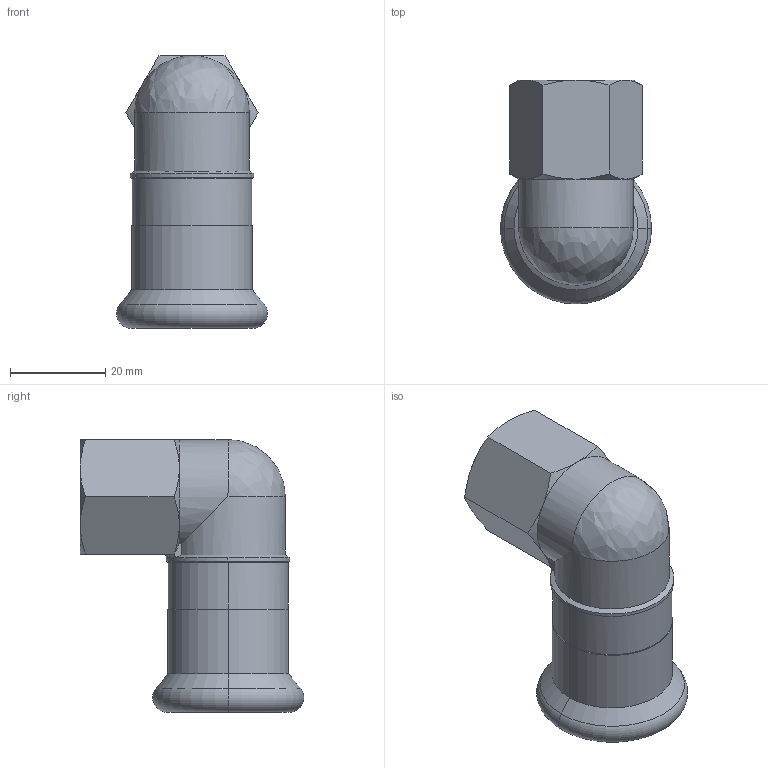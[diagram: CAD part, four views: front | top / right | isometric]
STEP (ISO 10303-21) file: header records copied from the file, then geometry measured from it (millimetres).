
FILE_DESCRIPTION(('Creo Elements/Direct Modeling STEP Export'),'2;1');
FILE_NAME('R2709 22xRp1-2.stp','2019-09-24T16:34:38',(''),(''),'PTC Creo Elements/Direct Modeling STEP processor for AP214 (Solid Model)','PTC Creo Elements/Direct Modeling 19.0C 15-Aug-2015 (C) Parametric Technology GmbH','');
FILE_SCHEMA(('AUTOMOTIVE_DESIGN { 1 0 10303 214 1 1 1 1 }'));
Length unit declared in the file: millimetre
Products named in the file (1): R2709_22xRp1-2
Bounding box: 31.7 x 46.9 x 57.2 mm (x, y, z)
Volume: 13620.1 mm3; surface area: 12148.6 mm2
Topology: 1 solids, 2 shells, 108 faces, 262 edges, 161 vertices
Faces by surface type: plane 46, cylinder 35, cone 22, torus 3, bspline 2
Entity records: 4177 total; most frequent: CARTESIAN_POINT 1829, ORIENTED_EDGE 518, DIRECTION 420, EDGE_CURVE 258, VERTEX_POINT 161, AXIS2_PLACEMENT_3D 149, EDGE_LOOP 124, VECTOR 122
